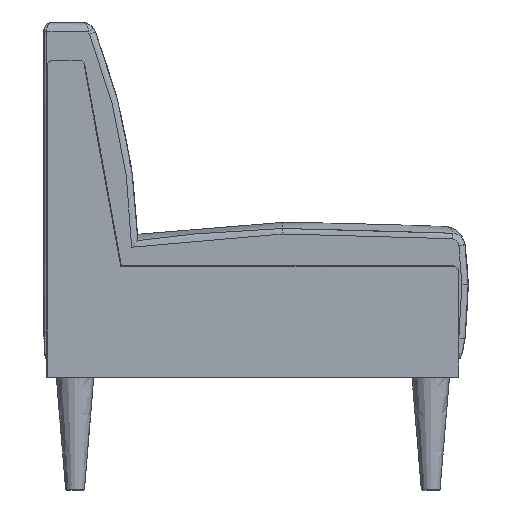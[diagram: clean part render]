
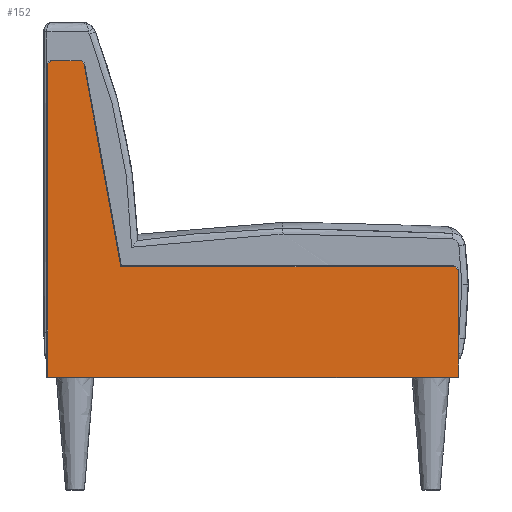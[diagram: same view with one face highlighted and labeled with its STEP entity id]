
A CAD part, left-side view. The second image highlights one B-rep face of the part: STEP entity #152.
In plain terms, the highlighted planar face has unit normal (-1, 0, 0).
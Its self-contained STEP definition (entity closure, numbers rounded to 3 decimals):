
#152=ADVANCED_FACE('',(#347),#2415,.T.);
#347=FACE_OUTER_BOUND('',#542,.T.);
#542=EDGE_LOOP('',(#1069,#1070,#1071,#1072,#1073,#1074,#1075,#1076,#1077));
#1069=ORIENTED_EDGE('',*,*,#1717,.T.);
#1070=ORIENTED_EDGE('',*,*,#1722,.T.);
#1071=ORIENTED_EDGE('',*,*,#1729,.T.);
#1072=ORIENTED_EDGE('',*,*,#1684,.T.);
#1073=ORIENTED_EDGE('',*,*,#1680,.T.);
#1074=ORIENTED_EDGE('',*,*,#1697,.T.);
#1075=ORIENTED_EDGE('',*,*,#1703,.T.);
#1076=ORIENTED_EDGE('',*,*,#1708,.T.);
#1077=ORIENTED_EDGE('',*,*,#1713,.T.);
#1680=EDGE_CURVE('',#2324,#2318,#2727,.T.);
#1684=EDGE_CURVE('',#2323,#2324,#2009,.T.);
#1697=EDGE_CURVE('',#2318,#2319,#2022,.T.);
#1703=EDGE_CURVE('',#2319,#2321,#2028,.T.);
#1708=EDGE_CURVE('',#2321,#2320,#2032,.T.);
#1713=EDGE_CURVE('',#2320,#2316,#2036,.T.);
#1717=EDGE_CURVE('',#2316,#2317,#2040,.T.);
#1722=EDGE_CURVE('',#2317,#2322,#2045,.T.);
#1729=EDGE_CURVE('',#2322,#2323,#2052,.T.);
#2009=(
BOUNDED_CURVE()
B_SPLINE_CURVE(1,(#17238,#17239),.UNSPECIFIED.,.F.,.F.)
B_SPLINE_CURVE_WITH_KNOTS((2,2),(0.,499.),
 .UNSPECIFIED.)
CURVE()
GEOMETRIC_REPRESENTATION_ITEM()
RATIONAL_B_SPLINE_CURVE((1.,1.))
REPRESENTATION_ITEM('')
);
#2022=(
BOUNDED_CURVE()
B_SPLINE_CURVE(1,(#17271,#17272),.UNSPECIFIED.,.F.,.F.)
B_SPLINE_CURVE_WITH_KNOTS((2,2),(1.,170.),
 .UNSPECIFIED.)
CURVE()
GEOMETRIC_REPRESENTATION_ITEM()
RATIONAL_B_SPLINE_CURVE((1.,1.))
REPRESENTATION_ITEM('')
);
#2028=(
BOUNDED_CURVE()
B_SPLINE_CURVE(2,(#17287,#17288,#17289),.UNSPECIFIED.,.F.,.F.)
B_SPLINE_CURVE_WITH_KNOTS((3,3),(0.,12.566),.UNSPECIFIED.)
CURVE()
GEOMETRIC_REPRESENTATION_ITEM()
RATIONAL_B_SPLINE_CURVE((1.,0.707,1.))
REPRESENTATION_ITEM('')
);
#2032=(
BOUNDED_CURVE()
B_SPLINE_CURVE(1,(#17310,#17311),.UNSPECIFIED.,.F.,.F.)
B_SPLINE_CURVE_WITH_KNOTS((2,2),(0.,532.669),
 .UNSPECIFIED.)
CURVE()
GEOMETRIC_REPRESENTATION_ITEM()
RATIONAL_B_SPLINE_CURVE((1.,1.))
REPRESENTATION_ITEM('')
);
#2036=(
BOUNDED_CURVE()
B_SPLINE_CURVE(1,(#17330,#17331),.UNSPECIFIED.,.F.,.F.)
B_SPLINE_CURVE_WITH_KNOTS((2,2),(-0.835,327.899),
 .UNSPECIFIED.)
CURVE()
GEOMETRIC_REPRESENTATION_ITEM()
RATIONAL_B_SPLINE_CURVE((1.,1.))
REPRESENTATION_ITEM('')
);
#2040=(
BOUNDED_CURVE()
B_SPLINE_CURVE(2,(#17339,#17340,#17341),.UNSPECIFIED.,.F.,.F.)
B_SPLINE_CURVE_WITH_KNOTS((3,3),(0.,11.127),.UNSPECIFIED.)
CURVE()
GEOMETRIC_REPRESENTATION_ITEM()
RATIONAL_B_SPLINE_CURVE((1.,0.768,1.))
REPRESENTATION_ITEM('')
);
#2045=(
BOUNDED_CURVE()
B_SPLINE_CURVE(1,(#17353,#17354),.UNSPECIFIED.,.F.,.F.)
B_SPLINE_CURVE_WITH_KNOTS((2,2),(0.,42.654),
 .UNSPECIFIED.)
CURVE()
GEOMETRIC_REPRESENTATION_ITEM()
RATIONAL_B_SPLINE_CURVE((1.,1.))
REPRESENTATION_ITEM('')
);
#2052=(
BOUNDED_CURVE()
B_SPLINE_CURVE(2,(#17371,#17372,#17373),.UNSPECIFIED.,.F.,.F.)
B_SPLINE_CURVE_WITH_KNOTS((3,3),(0.,12.566),.UNSPECIFIED.)
CURVE()
GEOMETRIC_REPRESENTATION_ITEM()
RATIONAL_B_SPLINE_CURVE((1.,0.707,1.))
REPRESENTATION_ITEM('')
);
#2316=VERTEX_POINT('',#17099);
#2317=VERTEX_POINT('',#17100);
#2318=VERTEX_POINT('',#17101);
#2319=VERTEX_POINT('',#17102);
#2320=VERTEX_POINT('',#17103);
#2321=VERTEX_POINT('',#17104);
#2322=VERTEX_POINT('',#17105);
#2323=VERTEX_POINT('',#17106);
#2324=VERTEX_POINT('',#17107);
#2415=PLANE('',#2786);
#2727=B_SPLINE_CURVE_WITH_KNOTS('',1,(#17229,#17230),.UNSPECIFIED.,.F.,
 .F.,(2,2),(1.,659.),.UNSPECIFIED.);
#2786=AXIS2_PLACEMENT_3D('',#15767,#2812,$);
#2812=DIRECTION('',(-1.,0.,0.));
#15767=CARTESIAN_POINT('',(-930.,77.5,116.375));
#17099=CARTESIAN_POINT('',(-930.,-64.525,681.431));
#17100=CARTESIAN_POINT('',(-930.,-56.654,688.));
#17101=CARTESIAN_POINT('',(-930.,-664.,181.));
#17102=CARTESIAN_POINT('',(-930.,-664.,350.));
#17103=CARTESIAN_POINT('',(-930.,-123.331,358.));
#17104=CARTESIAN_POINT('',(-930.,-656.,358.));
#17105=CARTESIAN_POINT('',(-930.,-14.,688.));
#17106=CARTESIAN_POINT('',(-930.,-6.,680.));
#17107=CARTESIAN_POINT('',(-930.,-6.,181.));
#17229=CARTESIAN_POINT('',(-930.,-6.,181.));
#17230=CARTESIAN_POINT('',(-930.,-664.,181.));
#17238=CARTESIAN_POINT('',(-930.,-6.,680.));
#17239=CARTESIAN_POINT('',(-930.,-6.,181.));
#17271=CARTESIAN_POINT('',(-930.,-664.,181.));
#17272=CARTESIAN_POINT('',(-930.,-664.,350.));
#17287=CARTESIAN_POINT('',(-930.,-664.,350.));
#17288=CARTESIAN_POINT('',(-930.,-664.,358.));
#17289=CARTESIAN_POINT('',(-930.,-656.,358.));
#17310=CARTESIAN_POINT('',(-930.,-656.,358.));
#17311=CARTESIAN_POINT('',(-930.,-123.331,358.));
#17330=CARTESIAN_POINT('',(-930.,-123.331,358.));
#17331=CARTESIAN_POINT('',(-930.,-64.525,681.431));
#17339=CARTESIAN_POINT('',(-930.,-64.525,681.431));
#17340=CARTESIAN_POINT('',(-930.,-63.331,688.));
#17341=CARTESIAN_POINT('',(-930.,-56.654,688.));
#17353=CARTESIAN_POINT('',(-930.,-56.654,688.));
#17354=CARTESIAN_POINT('',(-930.,-14.,688.));
#17371=CARTESIAN_POINT('',(-930.,-14.,688.));
#17372=CARTESIAN_POINT('',(-930.,-6.,688.));
#17373=CARTESIAN_POINT('',(-930.,-6.,680.));
